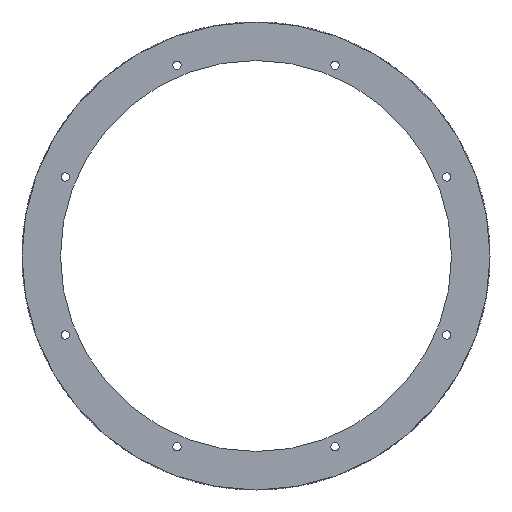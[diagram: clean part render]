
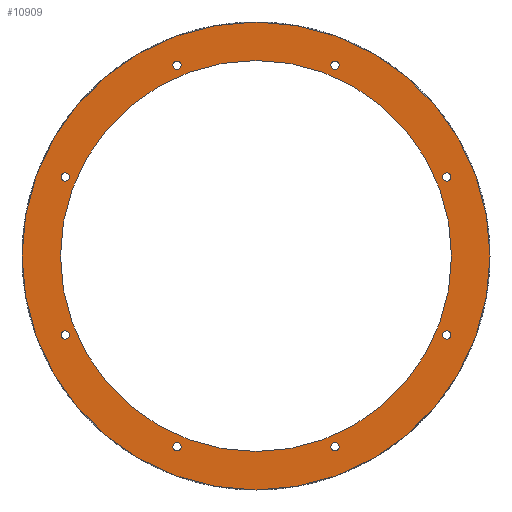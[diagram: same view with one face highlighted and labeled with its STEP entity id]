
A CAD part, front view. The second image highlights one B-rep face of the part: STEP entity #10909.
In plain terms, the highlighted planar face has unit normal (0, -1, 0).
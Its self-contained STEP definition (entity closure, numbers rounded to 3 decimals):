
#15=CARTESIAN_POINT('',(0.,0.,0.));
#16=DIRECTION('',(0.,1.,0.));
#17=DIRECTION('',(1.,0.,0.));
#18=AXIS2_PLACEMENT_3D('',#15,#16,#17);
#24=CARTESIAN_POINT('',(0.,0.,0.));
#25=DIRECTION('',(0.,1.,0.));
#26=DIRECTION('',(-1.,0.,0.));
#27=AXIS2_PLACEMENT_3D('',#24,#25,#26);
#32=CARTESIAN_POINT('',(0.,0.,0.));
#33=DIRECTION('',(0.,-1.,0.));
#34=DIRECTION('',(1.,0.,0.));
#35=AXIS2_PLACEMENT_3D('',#32,#33,#34);
#40=CARTESIAN_POINT('',(0.,0.,0.));
#41=DIRECTION('',(0.,-1.,0.));
#42=DIRECTION('',(-1.,0.,0.));
#43=AXIS2_PLACEMENT_3D('',#40,#41,#42);
#48=CARTESIAN_POINT('',(-60.976,0.,-25.257));
#49=DIRECTION('',(0.,1.,0.));
#50=DIRECTION('',(1.,0.,0.));
#51=AXIS2_PLACEMENT_3D('',#48,#49,#50);
#56=CARTESIAN_POINT('',(-60.976,0.,-25.257));
#57=DIRECTION('',(0.,1.,0.));
#58=DIRECTION('',(-1.,0.,0.));
#59=AXIS2_PLACEMENT_3D('',#56,#57,#58);
#64=CARTESIAN_POINT('',(25.257,0.,-60.976));
#65=DIRECTION('',(0.,1.,0.));
#66=DIRECTION('',(1.,0.,0.));
#67=AXIS2_PLACEMENT_3D('',#64,#65,#66);
#72=CARTESIAN_POINT('',(25.257,0.,-60.976));
#73=DIRECTION('',(0.,1.,0.));
#74=DIRECTION('',(-1.,0.,0.));
#75=AXIS2_PLACEMENT_3D('',#72,#73,#74);
#80=CARTESIAN_POINT('',(60.976,0.,25.257));
#81=DIRECTION('',(0.,1.,0.));
#82=DIRECTION('',(1.,0.,0.));
#83=AXIS2_PLACEMENT_3D('',#80,#81,#82);
#88=CARTESIAN_POINT('',(60.976,0.,25.257));
#89=DIRECTION('',(0.,1.,0.));
#90=DIRECTION('',(-1.,0.,0.));
#91=AXIS2_PLACEMENT_3D('',#88,#89,#90);
#96=CARTESIAN_POINT('',(-25.257,0.,60.976));
#97=DIRECTION('',(0.,1.,0.));
#98=DIRECTION('',(1.,0.,0.));
#99=AXIS2_PLACEMENT_3D('',#96,#97,#98);
#104=CARTESIAN_POINT('',(-25.257,0.,60.976));
#105=DIRECTION('',(0.,1.,0.));
#106=DIRECTION('',(-1.,0.,0.));
#107=AXIS2_PLACEMENT_3D('',#104,#105,#106);
#112=CARTESIAN_POINT('',(-25.257,0.,-60.976));
#113=DIRECTION('',(0.,1.,0.));
#114=DIRECTION('',(1.,0.,0.));
#115=AXIS2_PLACEMENT_3D('',#112,#113,#114);
#120=CARTESIAN_POINT('',(-25.257,0.,-60.976));
#121=DIRECTION('',(0.,1.,0.));
#122=DIRECTION('',(-1.,0.,0.));
#123=AXIS2_PLACEMENT_3D('',#120,#121,#122);
#128=CARTESIAN_POINT('',(-60.976,0.,25.257));
#129=DIRECTION('',(0.,1.,0.));
#130=DIRECTION('',(1.,0.,0.));
#131=AXIS2_PLACEMENT_3D('',#128,#129,#130);
#136=CARTESIAN_POINT('',(-60.976,0.,25.257));
#137=DIRECTION('',(0.,1.,0.));
#138=DIRECTION('',(-1.,0.,0.));
#139=AXIS2_PLACEMENT_3D('',#136,#137,#138);
#144=CARTESIAN_POINT('',(25.257,0.,60.976));
#145=DIRECTION('',(0.,1.,0.));
#146=DIRECTION('',(1.,0.,0.));
#147=AXIS2_PLACEMENT_3D('',#144,#145,#146);
#152=CARTESIAN_POINT('',(25.257,0.,60.976));
#153=DIRECTION('',(0.,1.,0.));
#154=DIRECTION('',(-1.,0.,0.));
#155=AXIS2_PLACEMENT_3D('',#152,#153,#154);
#160=CARTESIAN_POINT('',(60.976,0.,-25.257));
#161=DIRECTION('',(0.,1.,0.));
#162=DIRECTION('',(1.,0.,0.));
#163=AXIS2_PLACEMENT_3D('',#160,#161,#162);
#168=CARTESIAN_POINT('',(60.976,0.,-25.257));
#169=DIRECTION('',(0.,1.,0.));
#170=DIRECTION('',(-1.,0.,0.));
#171=AXIS2_PLACEMENT_3D('',#168,#169,#170);
#9196=CARTESIAN_POINT('',(74.8,0.,0.));
#9197=CARTESIAN_POINT('',(-74.8,0.,0.));
#9198=VERTEX_POINT('',#9196);
#9199=VERTEX_POINT('',#9197);
#9200=CARTESIAN_POINT('',(62.505,0.,0.));
#9201=CARTESIAN_POINT('',(-62.505,0.,0.));
#9202=VERTEX_POINT('',#9200);
#9203=VERTEX_POINT('',#9201);
#9722=CARTESIAN_POINT('',(-59.626,0.,-25.257));
#9723=CARTESIAN_POINT('',(-62.326,0.,-25.257));
#9724=VERTEX_POINT('',#9722);
#9725=VERTEX_POINT('',#9723);
#9726=CARTESIAN_POINT('',(26.607,0.,-60.976));
#9727=CARTESIAN_POINT('',(23.907,0.,-60.976));
#9728=VERTEX_POINT('',#9726);
#9729=VERTEX_POINT('',#9727);
#9730=CARTESIAN_POINT('',(62.326,0.,25.257));
#9731=CARTESIAN_POINT('',(59.626,0.,25.257));
#9732=VERTEX_POINT('',#9730);
#9733=VERTEX_POINT('',#9731);
#9734=CARTESIAN_POINT('',(-23.907,0.,60.976));
#9735=CARTESIAN_POINT('',(-26.607,0.,60.976));
#9736=VERTEX_POINT('',#9734);
#9737=VERTEX_POINT('',#9735);
#10664=CARTESIAN_POINT('',(-23.907,0.,-60.976));
#10665=CARTESIAN_POINT('',(-26.607,0.,-60.976));
#10666=VERTEX_POINT('',#10664);
#10667=VERTEX_POINT('',#10665);
#10668=CARTESIAN_POINT('',(-59.626,0.,25.257));
#10669=CARTESIAN_POINT('',(-62.326,0.,25.257));
#10670=VERTEX_POINT('',#10668);
#10671=VERTEX_POINT('',#10669);
#10672=CARTESIAN_POINT('',(26.607,0.,60.976));
#10673=CARTESIAN_POINT('',(23.907,0.,60.976));
#10674=VERTEX_POINT('',#10672);
#10675=VERTEX_POINT('',#10673);
#10676=CARTESIAN_POINT('',(62.326,0.,-25.257));
#10677=CARTESIAN_POINT('',(59.626,0.,-25.257));
#10678=VERTEX_POINT('',#10676);
#10679=VERTEX_POINT('',#10677);
#10844=CARTESIAN_POINT('',(0.,0.,0.));
#10845=DIRECTION('',(0.,1.,0.));
#10846=DIRECTION('',(1.,0.,0.));
#10847=AXIS2_PLACEMENT_3D('',#10844,#10845,#10846);
#10848=PLANE('',#10847);
#10850=ORIENTED_EDGE('',*,*,#10849,.T.);
#10852=ORIENTED_EDGE('',*,*,#10851,.T.);
#10853=EDGE_LOOP('',(#10850,#10852));
#10854=FACE_OUTER_BOUND('',#10853,.F.);
#10856=ORIENTED_EDGE('',*,*,#10855,.T.);
#10858=ORIENTED_EDGE('',*,*,#10857,.T.);
#10859=EDGE_LOOP('',(#10856,#10858));
#10860=FACE_BOUND('',#10859,.F.);
#10862=ORIENTED_EDGE('',*,*,#10861,.F.);
#10864=ORIENTED_EDGE('',*,*,#10863,.F.);
#10865=EDGE_LOOP('',(#10862,#10864));
#10866=FACE_BOUND('',#10865,.F.);
#10868=ORIENTED_EDGE('',*,*,#10867,.F.);
#10870=ORIENTED_EDGE('',*,*,#10869,.F.);
#10871=EDGE_LOOP('',(#10868,#10870));
#10872=FACE_BOUND('',#10871,.F.);
#10874=ORIENTED_EDGE('',*,*,#10873,.F.);
#10876=ORIENTED_EDGE('',*,*,#10875,.F.);
#10877=EDGE_LOOP('',(#10874,#10876));
#10878=FACE_BOUND('',#10877,.F.);
#10880=ORIENTED_EDGE('',*,*,#10879,.F.);
#10882=ORIENTED_EDGE('',*,*,#10881,.F.);
#10883=EDGE_LOOP('',(#10880,#10882));
#10884=FACE_BOUND('',#10883,.F.);
#10886=ORIENTED_EDGE('',*,*,#10885,.F.);
#10888=ORIENTED_EDGE('',*,*,#10887,.F.);
#10889=EDGE_LOOP('',(#10886,#10888));
#10890=FACE_BOUND('',#10889,.F.);
#10892=ORIENTED_EDGE('',*,*,#10891,.F.);
#10894=ORIENTED_EDGE('',*,*,#10893,.F.);
#10895=EDGE_LOOP('',(#10892,#10894));
#10896=FACE_BOUND('',#10895,.F.);
#10898=ORIENTED_EDGE('',*,*,#10897,.F.);
#10900=ORIENTED_EDGE('',*,*,#10899,.F.);
#10901=EDGE_LOOP('',(#10898,#10900));
#10902=FACE_BOUND('',#10901,.F.);
#10904=ORIENTED_EDGE('',*,*,#10903,.F.);
#10906=ORIENTED_EDGE('',*,*,#10905,.F.);
#10907=EDGE_LOOP('',(#10904,#10906));
#10908=FACE_BOUND('',#10907,.F.);
#10909=ADVANCED_FACE('',(#10854,#10860,#10866,#10872,#10878,#10884,#10890,
#10896,#10902,#10908),#10848,.F.);
#19=CIRCLE('',#18,74.8);
#28=CIRCLE('',#27,74.8);
#36=CIRCLE('',#35,62.505);
#44=CIRCLE('',#43,62.505);
#52=CIRCLE('',#51,1.35);
#60=CIRCLE('',#59,1.35);
#68=CIRCLE('',#67,1.35);
#76=CIRCLE('',#75,1.35);
#84=CIRCLE('',#83,1.35);
#92=CIRCLE('',#91,1.35);
#100=CIRCLE('',#99,1.35);
#108=CIRCLE('',#107,1.35);
#116=CIRCLE('',#115,1.35);
#124=CIRCLE('',#123,1.35);
#132=CIRCLE('',#131,1.35);
#140=CIRCLE('',#139,1.35);
#148=CIRCLE('',#147,1.35);
#156=CIRCLE('',#155,1.35);
#164=CIRCLE('',#163,1.35);
#172=CIRCLE('',#171,1.35);
#10849=EDGE_CURVE('',#9198,#9199,#19,.T.);
#10851=EDGE_CURVE('',#9199,#9198,#28,.T.);
#10855=EDGE_CURVE('',#9202,#9203,#36,.T.);
#10857=EDGE_CURVE('',#9203,#9202,#44,.T.);
#10861=EDGE_CURVE('',#9724,#9725,#52,.T.);
#10863=EDGE_CURVE('',#9725,#9724,#60,.T.);
#10867=EDGE_CURVE('',#9728,#9729,#68,.T.);
#10869=EDGE_CURVE('',#9729,#9728,#76,.T.);
#10873=EDGE_CURVE('',#9732,#9733,#84,.T.);
#10875=EDGE_CURVE('',#9733,#9732,#92,.T.);
#10879=EDGE_CURVE('',#9736,#9737,#100,.T.);
#10881=EDGE_CURVE('',#9737,#9736,#108,.T.);
#10885=EDGE_CURVE('',#10666,#10667,#116,.T.);
#10887=EDGE_CURVE('',#10667,#10666,#124,.T.);
#10891=EDGE_CURVE('',#10670,#10671,#132,.T.);
#10893=EDGE_CURVE('',#10671,#10670,#140,.T.);
#10897=EDGE_CURVE('',#10674,#10675,#148,.T.);
#10899=EDGE_CURVE('',#10675,#10674,#156,.T.);
#10903=EDGE_CURVE('',#10678,#10679,#164,.T.);
#10905=EDGE_CURVE('',#10679,#10678,#172,.T.);
